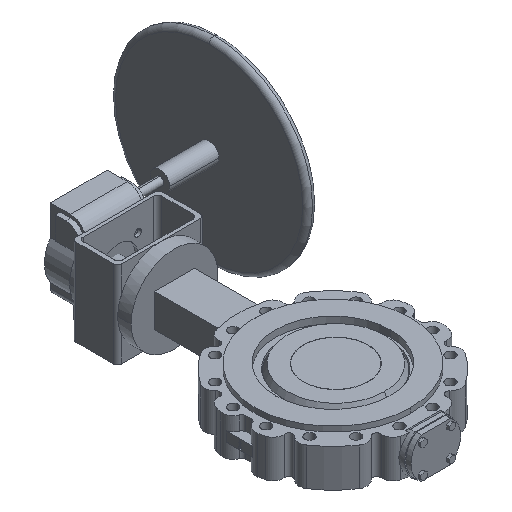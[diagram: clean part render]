
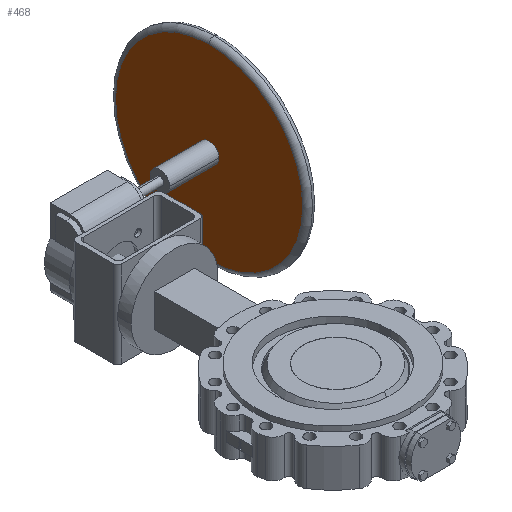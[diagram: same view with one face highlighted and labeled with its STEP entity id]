
A CAD part, isometric view. The second image highlights one B-rep face of the part: STEP entity #468.
In plain terms, the highlighted planar face has unit normal (-1, 0, 0).
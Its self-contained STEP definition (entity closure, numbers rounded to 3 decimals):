
#468 = ADVANCED_FACE( '', ( #1241, #1242 ), #1243, .T. );
#1241 = FACE_OUTER_BOUND( '', #2021, .T. );
#1242 = FACE_BOUND( '', #2022, .T. );
#1243 = PLANE( '', #2023 );
#2021 = EDGE_LOOP( '', ( #4919, #4920, #4921 ) );
#2022 = EDGE_LOOP( '', ( #4922, #4923 ) );
#2023 = AXIS2_PLACEMENT_3D( '', #4924, #4925, #4926 );
#4919 = ORIENTED_EDGE( '', *, *, #5752, .F. );
#4920 = ORIENTED_EDGE( '', *, *, #5751, .F. );
#4921 = ORIENTED_EDGE( '', *, *, #5748, .F. );
#4922 = ORIENTED_EDGE( '', *, *, #5764, .T. );
#4923 = ORIENTED_EDGE( '', *, *, #5905, .T. );
#4924 = CARTESIAN_POINT( '', ( 280., 725.25, 86. ) );
#4925 = DIRECTION( '', ( -1., 0., 0. ) );
#4926 = DIRECTION( '', ( 0., -1., 0. ) );
#5748 = EDGE_CURVE( '', #7204, #7206, #7207, .T. );
#5751 = EDGE_CURVE( '', #7206, #7210, #7211, .T. );
#5752 = EDGE_CURVE( '', #7210, #7204, #7212, .T. );
#5764 = EDGE_CURVE( '', #7229, #7233, #7235, .T. );
#5905 = EDGE_CURVE( '', #7233, #7229, #7469, .T. );
#7204 = VERTEX_POINT( '', #9884 );
#7206 = VERTEX_POINT( '', #9886 );
#7207 = CIRCLE( '', #9887, 237.5 );
#7210 = VERTEX_POINT( '', #9890 );
#7211 = CIRCLE( '', #9891, 237.5 );
#7212 = CIRCLE( '', #9892, 237.5 );
#7229 = VERTEX_POINT( '', #9911 );
#7233 = VERTEX_POINT( '', #9916 );
#7235 = CIRCLE( '', #9919, 25. );
#7469 = CIRCLE( '', #10288, 25. );
#9884 = CARTESIAN_POINT( '', ( 280., 594., 323.5 ) );
#9886 = CARTESIAN_POINT( '', ( 280., 594., -151.5 ) );
#9887 = AXIS2_PLACEMENT_3D( '', #11792, #11793, #11794 );
#9890 = CARTESIAN_POINT( '', ( 280., 831.5, 86. ) );
#9891 = AXIS2_PLACEMENT_3D( '', #11801, #11802, #11803 );
#9892 = AXIS2_PLACEMENT_3D( '', #11804, #11805, #11806 );
#9911 = CARTESIAN_POINT( '', ( 280., 619., 86. ) );
#9916 = CARTESIAN_POINT( '', ( 280., 569., 86. ) );
#9919 = AXIS2_PLACEMENT_3D( '', #11832, #11833, #11834 );
#10288 = AXIS2_PLACEMENT_3D( '', #12048, #12049, #12050 );
#11792 = CARTESIAN_POINT( '', ( 280., 594., 86. ) );
#11793 = DIRECTION( '', ( 1., 0., 0. ) );
#11794 = DIRECTION( '', ( 0., 1., 0. ) );
#11801 = CARTESIAN_POINT( '', ( 280., 594., 86. ) );
#11802 = DIRECTION( '', ( 1., 0., 0. ) );
#11803 = DIRECTION( '', ( 0., 1., 0. ) );
#11804 = CARTESIAN_POINT( '', ( 280., 594., 86. ) );
#11805 = DIRECTION( '', ( 1., 0., 0. ) );
#11806 = DIRECTION( '', ( 0., 1., 0. ) );
#11832 = CARTESIAN_POINT( '', ( 280., 594., 86. ) );
#11833 = DIRECTION( '', ( 1., 0., 0. ) );
#11834 = DIRECTION( '', ( 0., 1., 0. ) );
#12048 = CARTESIAN_POINT( '', ( 280., 594., 86. ) );
#12049 = DIRECTION( '', ( 1., 0., 0. ) );
#12050 = DIRECTION( '', ( 0., 1., 0. ) );
